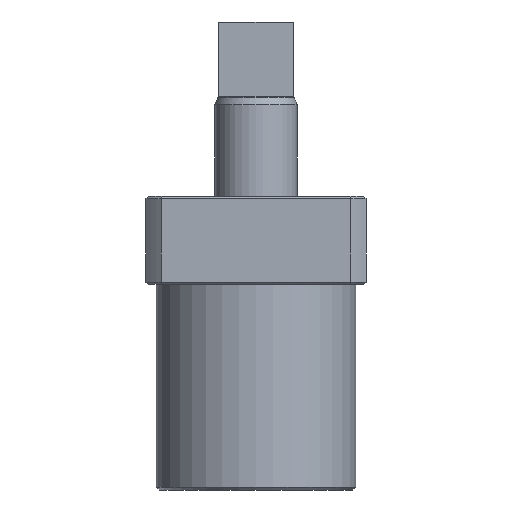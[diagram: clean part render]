
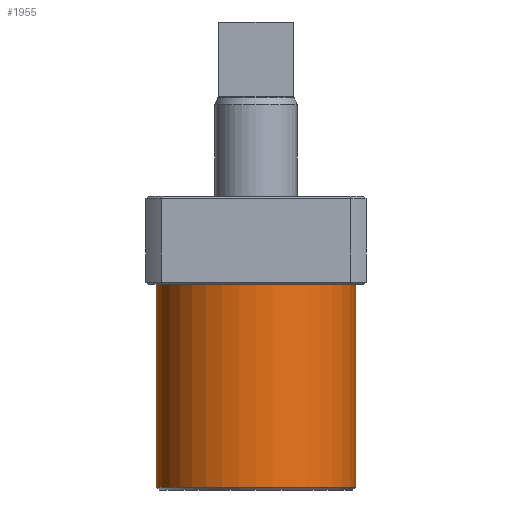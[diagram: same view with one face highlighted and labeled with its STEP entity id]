
A CAD part, front view. The second image highlights one B-rep face of the part: STEP entity #1955.
In plain terms, the highlighted cylindrical face has radius 34 mm (diameter 68 mm), a full revolution.
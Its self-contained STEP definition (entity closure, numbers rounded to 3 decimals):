
#253=CYLINDRICAL_SURFACE('',#2136,34.);
#438=ORIENTED_EDGE('',*,*,#735,.T.);
#439=ORIENTED_EDGE('',*,*,#733,.T.);
#733=EDGE_CURVE('',#900,#900,#1017,.T.);
#735=EDGE_CURVE('',#902,#902,#1019,.T.);
#900=VERTEX_POINT('',#2972);
#902=VERTEX_POINT('',#2978);
#1017=CIRCLE('',#2133,34.);
#1019=CIRCLE('',#2137,34.);
#1153=EDGE_LOOP('',(#438));
#1154=EDGE_LOOP('',(#439));
#1331=FACE_BOUND('',#1153,.T.);
#1332=FACE_BOUND('',#1154,.T.);
#1955=ADVANCED_FACE('',(#1331,#1332),#253,.T.);
#2133=AXIS2_PLACEMENT_3D('',#2971,#2464,#2465);
#2136=AXIS2_PLACEMENT_3D('',#2976,#2470,#2471);
#2137=AXIS2_PLACEMENT_3D('',#2977,#2472,#2473);
#2464=DIRECTION('',(0.,0.,-1.));
#2465=DIRECTION('',(0.,1.,0.));
#2470=DIRECTION('',(0.,0.,1.));
#2471=DIRECTION('',(0.,-1.,0.));
#2472=DIRECTION('',(0.,0.,1.));
#2473=DIRECTION('',(1.,0.,0.));
#2971=CARTESIAN_POINT('',(0.,39.5,-9.7));
#2972=CARTESIAN_POINT('',(0.,73.5,-9.7));
#2976=CARTESIAN_POINT('',(0.,39.5,-79.7));
#2977=CARTESIAN_POINT('',(0.,39.5,-78.7));
#2978=CARTESIAN_POINT('',(34.,39.5,-78.7));
